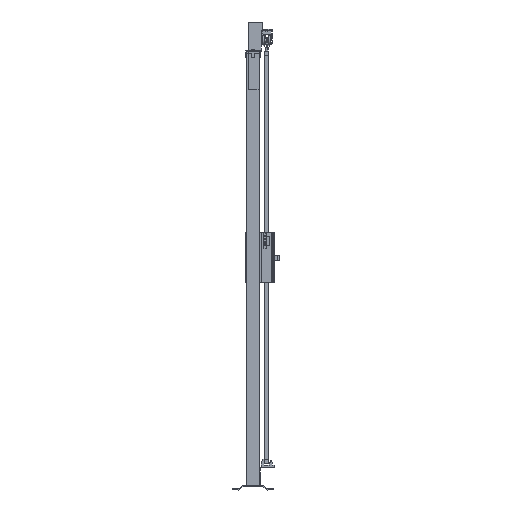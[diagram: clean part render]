
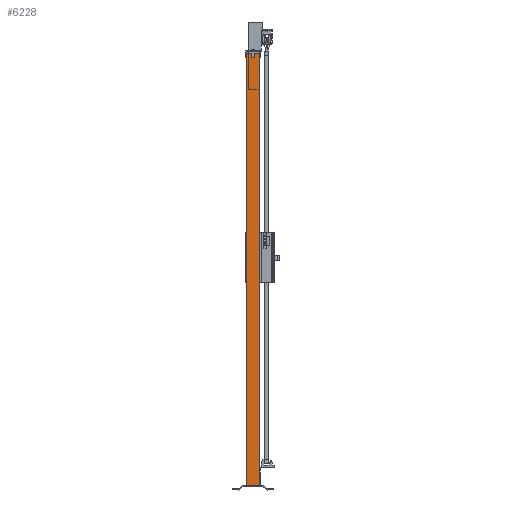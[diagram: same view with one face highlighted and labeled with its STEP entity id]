
A CAD part, left-side view. The second image highlights one B-rep face of the part: STEP entity #6228.
In plain terms, the highlighted planar face has unit normal (-1, 0, 0).
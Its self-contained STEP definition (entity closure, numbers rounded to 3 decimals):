
#523=FACE_OUTER_BOUND('',#972,.T.);
#972=EDGE_LOOP('',(#3824,#3825,#3826,#3827));
#1478=VERTEX_POINT('',#13054);
#1479=VERTEX_POINT('',#13056);
#1482=VERTEX_POINT('',#13063);
#1483=VERTEX_POINT('',#13065);
#2396=EDGE_CURVE('',#1478,#1479,#7209,.T.);
#2400=EDGE_CURVE('',#1482,#1483,#7213,.T.);
#2402=EDGE_CURVE('',#1479,#1482,#7215,.T.);
#2404=EDGE_CURVE('',#1478,#1483,#7217,.T.);
#3824=ORIENTED_EDGE('',*,*,#2404,.T.);
#3825=ORIENTED_EDGE('',*,*,#2400,.F.);
#3826=ORIENTED_EDGE('',*,*,#2402,.F.);
#3827=ORIENTED_EDGE('',*,*,#2396,.F.);
#5822=PLANE('',#9377);
#6228=ADVANCED_FACE('',(#523),#5822,.F.);
#7209=LINE('',#13057,#8381);
#7213=LINE('',#13066,#8385);
#7215=LINE('',#13069,#8387);
#7217=LINE('',#13072,#8389);
#8381=VECTOR('',#10380,1.);
#8385=VECTOR('',#10386,1.);
#8387=VECTOR('',#10390,1.);
#8389=VECTOR('',#10394,1.);
#9377=AXIS2_PLACEMENT_3D('',#13071,#10392,#10393);
#10380=DIRECTION('',(0.,-1.,0.));
#10386=DIRECTION('',(0.,1.,0.));
#10390=DIRECTION('',(0.,0.,-1.));
#10392=DIRECTION('center_axis',(1.,0.,0.));
#10393=DIRECTION('ref_axis',(0.,0.,-1.));
#10394=DIRECTION('',(0.,0.,-1.));
#13054=CARTESIAN_POINT('',(-30.,30.,2020.));
#13056=CARTESIAN_POINT('',(-30.,-30.,2020.));
#13057=CARTESIAN_POINT('',(-30.,0.,2020.));
#13063=CARTESIAN_POINT('',(-30.,-30.,20.));
#13065=CARTESIAN_POINT('',(-30.,30.,20.));
#13066=CARTESIAN_POINT('',(-30.,0.,20.));
#13069=CARTESIAN_POINT('',(-30.,-30.,1020.));
#13071=CARTESIAN_POINT('Origin',(-30.,0.,
1020.));
#13072=CARTESIAN_POINT('',(-30.,30.,1020.));
